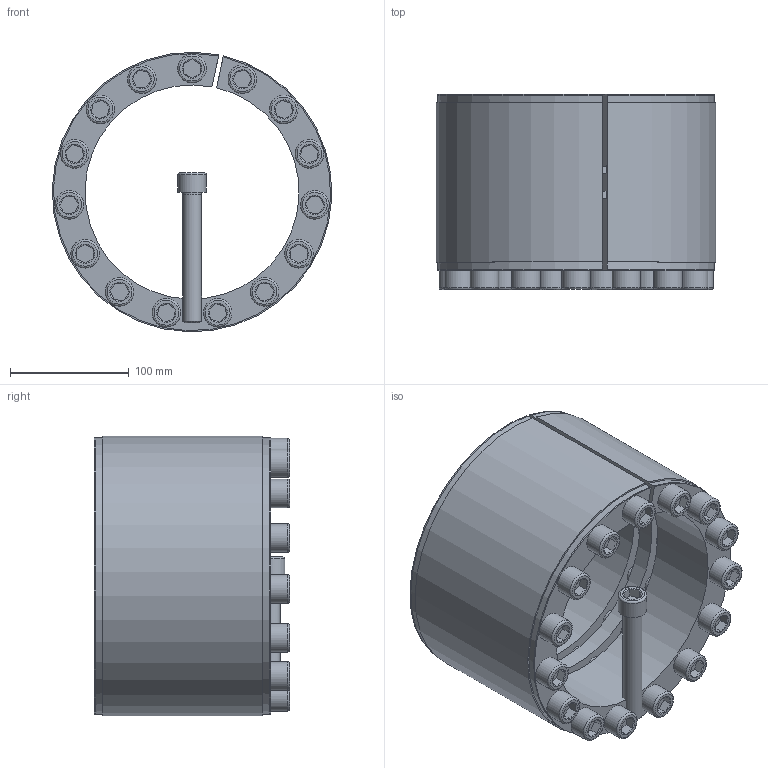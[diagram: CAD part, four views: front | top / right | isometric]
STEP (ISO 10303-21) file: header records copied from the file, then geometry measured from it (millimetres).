
FILE_DESCRIPTION( ( 'Unknown' ), '1' );
FILE_NAME( 'C:/Dokumente und Einstellungen/Sven/Desktop/homepage/cad - homepage/KBS11/KBS 11 - 180 x 235.stp', 'Unknown', ( 'Unknown' ), ( 'Unknown' ), 'XStep 1.0', 'Unknown', ' ' );
FILE_SCHEMA( ( 'automotive_design' ) );
Length unit declared in the file: millimetre
Products named in the file (3): Assem1; KBS 11 - 180 x 235; ISO EN DIN 4762 M16x110
Bounding box: 234.84 x 164 x 234.9 mm (x, y, z)
Volume: 4481226.5 mm3; surface area: 885568.1 mm2
Topology: 18 solids, 18 shells, 530 faces, 1126 edges, 696 vertices
Faces by surface type: plane 212, cylinder 166, cone 120, torus 32
Full cylindrical faces by diameter (mm): 13 x16, 16 x122, 24 x16
Entity records: 3418 total; most frequent: CARTESIAN_POINT 525, DIRECTION 504, ORIENTED_EDGE 358, EDGE_LOOP 236, AXIS2_PLACEMENT_3D 232, EDGE_CURVE 179, VERTEX_POINT 149, FACE_OUTER_BOUND 141
